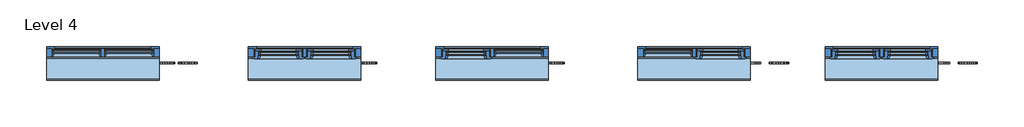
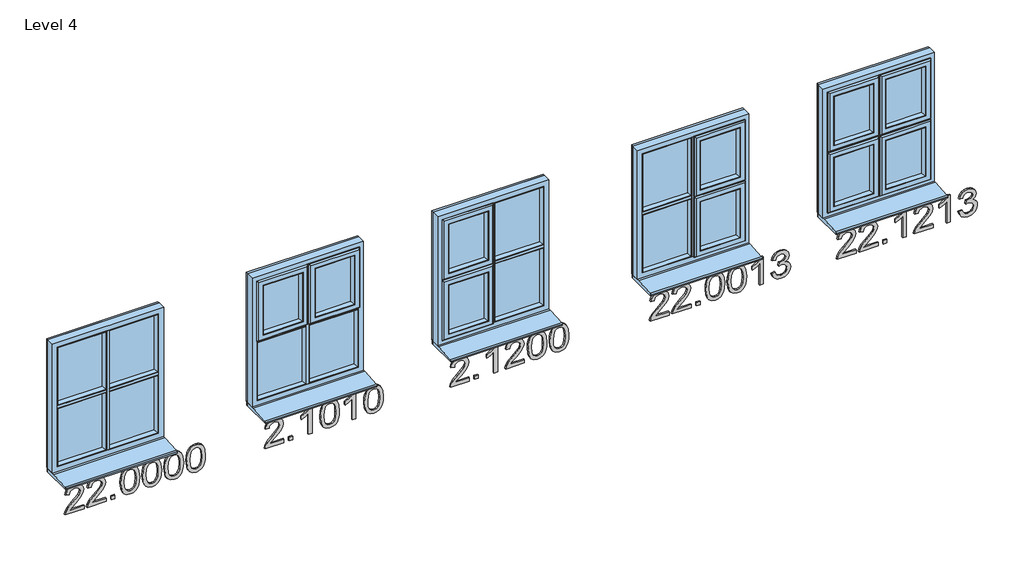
# One storey: 5 proxies, 5 windows.
"""IFC4 building model written with IfcOpenShell, lengths in millimetres."""

from ifc_helpers import new_model, si_unit, frame, origin, place, context, project, spatial, polyline, outline, extrude, transform, mapped, element, save
from components import standard_3f2e796d, standard_b7164f84, standard_6e114708, standard_c9fbf214, standard_c503fd03

model = new_model("IFC4")

# Units and contexts
model_context = context("Model", 3, world=origin())
ifc_project = project(units=[si_unit("LENGTHUNIT", "METRE", prefix="MILLI")], contexts=[model_context])

# Site, building, storey
site = spatial("IfcSite", under=ifc_project)
building = spatial("IfcBuilding", under=site)
storey = spatial("IfcBuildingStorey", under=building, Name="Level 4", Elevation=9000.0)

# Proxies
placement = place(None, origin())
element("IfcBuildingElementProxy", 1, Name="200mm Arial", ObjectType="200mm Arial", at=placement, inside=storey, context=model_context, shape_type="SweptSolid", body=[
    extrude(outline(polyline([(9359.434856, -163073.2452174), (9359.434856, -163171.8866431), (9372.212624, -163160.5558776), (9396.3702083, -163131.6648783), (9430.7794376, -163095.6860191), (9455.4030058, -163080.848112), (9479.2172337, -163076.3844771), (9501.1184751, -163080.5231496), (9519.1446929, -163092.9391669), (9531.2112223, -163112.4553067), (9535.2333988, -163137.8943467), (9531.6158925, -163163.1494457), (9520.7633736, -163182.7023737), (9503.0191987, -163195.8664178), (9478.7267243, -163201.9548648), (9475.5874646, -163176.8407873), (9490.0207016, -163174.1245919), (9500.9467968, -163166.2703113), (9507.8261901, -163154.0995486), (9510.1193212, -163138.433907), (9507.7710078, -163123.5162921), (9500.7260676, -163111.7256741), (9490.2720876, -163104.0553345), (9477.6966547, -163101.4985546), (9463.668088, -163104.2086187), (9449.2471138, -163112.3388108), (9407.4066682, -163155.6998353), (9378.2949396, -163187.1414831), (9351.6357577, -163202.3963232), (9334.3207785, -163205.0941245), (9334.3207785, -163073.2452174), (9359.434856, -163073.2452174)])), frame((0.0, 24202.6264647, 0.0), z_axis=(0.0, 1.0, 0.0), x_axis=(0.0, 0.0, 1.0)), (0.0, 0.0, 1.0), 10.0),
    extrude(outline(polyline([(9359.434856, -162919.4214925), (9359.434856, -163018.0629181), (9372.212624, -163006.7321527), (9396.3702083, -162977.8411533), (9430.7794376, -162941.8622942), (9455.4030058, -162927.0243871), (9479.2172337, -162922.5607522), (9501.1184751, -162926.6994246), (9519.1446929, -162939.115442), (9531.2112223, -162958.6315818), (9535.2333988, -162984.0706218), (9531.6158925, -163009.3257208), (9520.7633736, -163028.8786488), (9503.0191987, -163042.0426929), (9478.7267243, -163048.1311399), (9475.5874646, -163023.0170623), (9490.0207016, -163020.3008669), (9500.9467968, -163012.4465863), (9507.8261901, -163000.2758237), (9510.1193212, -162984.610182), (9507.7710078, -162969.6925671), (9500.7260676, -162957.9019492), (9490.2720876, -162950.2316096), (9477.6966547, -162947.6748297), (9463.668088, -162950.3848938), (9449.2471138, -162958.5150859), (9407.4066682, -163001.8761104), (9378.2949396, -163033.3177582), (9351.6357577, -163048.5725983), (9334.3207785, -163051.2703996), (9334.3207785, -162919.4214925), (9359.434856, -162919.4214925)])), frame((0.0, 24202.6264647, 0.0), z_axis=(0.0, 1.0, 0.0), x_axis=(0.0, 0.0, 1.0)), (0.0, 0.0, 1.0), 10.0),
    extrude(outline(polyline([(-162856.6362987, 24202.6264647), (-162881.7503762, 24202.6264647), (-162881.7503762, 24212.6264647), (-162856.6362987, 24212.6264647), (-162856.6362987, 24202.6264647)])), frame((0.0, 0.0, 9334.3207785), z_axis=(0.0, 0.0, 1.0), x_axis=(1.0, 0.0, 0.0)), (0.0, 0.0, 1.0), 25.1140775),
    extrude(outline(polyline([(9433.1584079, -162815.8259227), (9384.2914162, -162810.8227275), (9365.4405296, -162804.5687336), (9350.3113825, -162795.8131421), (9335.9639847, -162775.9965653), (9331.1815188, -162749.9014691), (9333.9345024, -162729.6005144), (9342.1934532, -162713.1377951), (9356.0503417, -162700.4029467), (9375.5971383, -162691.2856046), (9401.1833311, -162685.8041628), (9433.1584079, -162683.9770156), (9480.3699306, -162688.5387523), (9510.0947958, -162700.3109762), (9520.8553441, -162708.9807285), (9528.7586757, -162720.5690114), (9533.614718, -162734.4258999), (9535.2333988, -162749.9014691), (9532.4988093, -162770.0920593), (9524.2950408, -162786.5179904), (9510.4933346, -162799.2712329), (9490.964932, -162808.4437573), (9465.3174256, -162813.9803813), (9433.1584079, -162815.8259227)]), holes=[polyline([(9433.2074588, -162790.7118451), (9472.2029503, -162787.6706873), (9496.6793657, -162778.5472138), (9506.7593324, -162765.9165986), (9510.1193212, -162750.1957747), (9506.3056112, -162733.592034), (9494.8644812, -162720.4709095), (9471.8228055, -162711.9360472), (9433.2074588, -162709.0910931), (9393.7643775, -162712.0341491), (9370.8882488, -162720.863317), (9359.9437594, -162734.0089669), (9356.2955963, -162749.9014691), (9359.9314967, -162765.7939713), (9370.8391979, -162778.9396213), (9393.7030639, -162787.7687892), (9433.2074588, -162790.7118451)])]), frame((0.0, 24202.6264647, 0.0), z_axis=(0.0, 1.0, 0.0), x_axis=(0.0, 0.0, 1.0)), (0.0, 0.0, 1.0), 10.0),
    extrude(outline(polyline([(9433.1584079, -162662.0021977), (9384.2914162, -162656.9990026), (9365.4405296, -162650.7450087), (9350.3113825, -162641.9894172), (9335.9639847, -162622.1728404), (9331.1815188, -162596.0777442), (9333.9345024, -162575.7767894), (9342.1934532, -162559.3140702), (9356.0503417, -162546.5792218), (9375.5971383, -162537.4618796), (9401.1833311, -162531.9804379), (9433.1584079, -162530.1532907), (9480.3699306, -162534.7150274), (9510.0947958, -162546.4872513), (9520.8553441, -162555.1570036), (9528.7586757, -162566.7452865), (9533.614718, -162580.6021749), (9535.2333988, -162596.0777442), (9532.4988093, -162616.2683344), (9524.2950408, -162632.6942655), (9510.4933346, -162645.447508), (9490.964932, -162654.6200324), (9465.3174256, -162660.1566564), (9433.1584079, -162662.0021977)]), holes=[polyline([(9433.2074588, -162636.8881202), (9472.2029503, -162633.8469624), (9496.6793657, -162624.7234889), (9506.7593324, -162612.0928737), (9510.1193212, -162596.3720498), (9506.3056112, -162579.7683091), (9494.8644812, -162566.6471846), (9471.8228055, -162558.1123223), (9433.2074588, -162555.2673682), (9393.7643775, -162558.2104242), (9370.8882488, -162567.0395921), (9359.9437594, -162580.185242), (9356.2955963, -162596.0777442), (9359.9314967, -162611.9702464), (9370.8391979, -162625.1158964), (9393.7030639, -162633.9450642), (9433.2074588, -162636.8881202)])]), frame((0.0, 24202.6264647, 0.0), z_axis=(0.0, 1.0, 0.0), x_axis=(0.0, 0.0, 1.0)), (0.0, 0.0, 1.0), 10.0),
    extrude(outline(polyline([(9433.1584079, -162508.1784728), (9384.2914162, -162503.1752777), (9365.4405296, -162496.9212838), (9350.3113825, -162488.1656923), (9335.9639847, -162468.3491155), (9331.1815188, -162442.2540193), (9333.9345024, -162421.9530645), (9342.1934532, -162405.4903452), (9356.0503417, -162392.7554968), (9375.5971383, -162383.6381547), (9401.1833311, -162378.156713), (9433.1584079, -162376.3295658), (9480.3699306, -162380.8913025), (9510.0947958, -162392.6635263), (9520.8553441, -162401.3332787), (9528.7586757, -162412.9215615), (9533.614718, -162426.77845), (9535.2333988, -162442.2540193), (9532.4988093, -162462.4446095), (9524.2950408, -162478.8705405), (9510.4933346, -162491.623783), (9490.964932, -162500.7963075), (9465.3174256, -162506.3329315), (9433.1584079, -162508.1784728)]), holes=[polyline([(9433.2074588, -162483.0643953), (9472.2029503, -162480.0232375), (9496.6793657, -162470.899764), (9506.7593324, -162458.2691488), (9510.1193212, -162442.5483249), (9506.3056112, -162425.9445842), (9494.8644812, -162412.8234597), (9471.8228055, -162404.2885974), (9433.2074588, -162401.4436433), (9393.7643775, -162404.3866993), (9370.8882488, -162413.2158671), (9359.9437594, -162426.3615171), (9356.2955963, -162442.2540193), (9359.9314967, -162458.1465215), (9370.8391979, -162471.2921714), (9393.7030639, -162480.1213393), (9433.2074588, -162483.0643953)])]), frame((0.0, 24202.6264647, 0.0), z_axis=(0.0, 1.0, 0.0), x_axis=(0.0, 0.0, 1.0)), (0.0, 0.0, 1.0), 10.0),
    extrude(outline(polyline([(9433.1584079, -162354.3547479), (9384.2914162, -162349.3515528), (9365.4405296, -162343.0975589), (9350.3113825, -162334.3419674), (9335.9639847, -162314.5253906), (9331.1815188, -162288.4302944), (9333.9345024, -162268.1293396), (9342.1934532, -162251.6666203), (9356.0503417, -162238.9317719), (9375.5971383, -162229.8144298), (9401.1833311, -162224.3329881), (9433.1584079, -162222.5058408), (9480.3699306, -162227.0675776), (9510.0947958, -162238.8398014), (9520.8553441, -162247.5095538), (9528.7586757, -162259.0978366), (9533.614718, -162272.9547251), (9535.2333988, -162288.4302944), (9532.4988093, -162308.6208845), (9524.2950408, -162325.0468156), (9510.4933346, -162337.8000581), (9490.964932, -162346.9725825), (9465.3174256, -162352.5092066), (9433.1584079, -162354.3547479)]), holes=[polyline([(9433.2074588, -162329.2406704), (9472.2029503, -162326.1995125), (9496.6793657, -162317.0760391), (9506.7593324, -162304.4454239), (9510.1193212, -162288.7246), (9506.3056112, -162272.1208593), (9494.8644812, -162258.9997348), (9471.8228055, -162250.4648725), (9433.2074588, -162247.6199184), (9393.7643775, -162250.5629743), (9370.8882488, -162259.3921422), (9359.9437594, -162272.5377922), (9356.2955963, -162288.4302944), (9359.9314967, -162304.3227966), (9370.8391979, -162317.4684465), (9393.7030639, -162326.2976144), (9433.2074588, -162329.2406704)])]), frame((0.0, 24202.6264647, 0.0), z_axis=(0.0, 1.0, 0.0), x_axis=(0.0, 0.0, 1.0)), (0.0, 0.0, 1.0), 10.0),
])
element("IfcBuildingElementProxy", 2, Name="200mm Arial", ObjectType="200mm Arial", at=placement, inside=storey, context=model_context, shape_type="SweptSolid", body=[
    extrude(outline(polyline([(9359.434856, -161673.2452174), (9359.434856, -161771.8866431), (9372.212624, -161760.5558776), (9396.3702083, -161731.6648783), (9430.7794376, -161695.6860191), (9455.4030058, -161680.848112), (9479.2172337, -161676.3844771), (9501.1184751, -161680.5231496), (9519.1446929, -161692.9391669), (9531.2112223, -161712.4553067), (9535.2333988, -161737.8943467), (9531.6158925, -161763.1494457), (9520.7633736, -161782.7023737), (9503.0191987, -161795.8664178), (9478.7267243, -161801.9548648), (9475.5874646, -161776.8407873), (9490.0207016, -161774.1245919), (9500.9467968, -161766.2703113), (9507.8261901, -161754.0995486), (9510.1193212, -161738.433907), (9507.7710078, -161723.5162921), (9500.7260676, -161711.7256741), (9490.2720876, -161704.0553345), (9477.6966547, -161701.4985546), (9463.668088, -161704.2086187), (9449.2471138, -161712.3388108), (9407.4066682, -161755.6998353), (9378.2949396, -161787.1414831), (9351.6357577, -161802.3963232), (9334.3207785, -161805.0941245), (9334.3207785, -161673.2452174), (9359.434856, -161673.2452174)])), frame((0.0, 24202.6264647, 0.0), z_axis=(0.0, 1.0, 0.0), x_axis=(0.0, 0.0, 1.0)), (0.0, 0.0, 1.0), 10.0),
    extrude(outline(polyline([(-161610.4600236, 24202.6264647), (-161635.5741011, 24202.6264647), (-161635.5741011, 24212.6264647), (-161610.4600236, 24212.6264647), (-161610.4600236, 24202.6264647)])), frame((0.0, 0.0, 9334.3207785), z_axis=(0.0, 0.0, 1.0), x_axis=(1.0, 0.0, 0.0)), (0.0, 0.0, 1.0), 25.1140775),
    extrude(outline(polyline([(9334.3207785, -161475.4718568), (9535.2333988, -161475.4718568), (9535.2333988, -161491.6586646), (9522.0754861, -161500.530752), (9508.5006405, -161514.0013644), (9485.0052437, -161550.8140894), (9461.2645923, -161550.8140894), (9473.9442584, -161524.3756367), (9490.8913556, -161500.5859343), (9334.3207785, -161500.5859343), (9334.3207785, -161475.4718568)])), frame((0.0, 24202.6264647, 0.0), z_axis=(0.0, 1.0, 0.0), x_axis=(0.0, 0.0, 1.0)), (0.0, 0.0, 1.0), 10.0),
    extrude(outline(polyline([(9433.1584079, -161415.8259227), (9384.2914162, -161410.8227275), (9365.4405296, -161404.5687336), (9350.3113825, -161395.8131421), (9335.9639847, -161375.9965653), (9331.1815188, -161349.9014691), (9333.9345024, -161329.6005144), (9342.1934532, -161313.1377951), (9356.0503417, -161300.4029467), (9375.5971383, -161291.2856046), (9401.1833311, -161285.8041628), (9433.1584079, -161283.9770156), (9480.3699306, -161288.5387523), (9510.0947958, -161300.3109762), (9520.8553441, -161308.9807285), (9528.7586757, -161320.5690114), (9533.614718, -161334.4258999), (9535.2333988, -161349.9014691), (9532.4988093, -161370.0920593), (9524.2950408, -161386.5179904), (9510.4933346, -161399.2712329), (9490.964932, -161408.4437573), (9465.3174256, -161413.9803813), (9433.1584079, -161415.8259227)]), holes=[polyline([(9433.2074588, -161390.7118451), (9472.2029503, -161387.6706873), (9496.6793657, -161378.5472138), (9506.7593324, -161365.9165986), (9510.1193212, -161350.1957747), (9506.3056112, -161333.592034), (9494.8644812, -161320.4709095), (9471.8228055, -161311.9360472), (9433.2074588, -161309.0910931), (9393.7643775, -161312.0341491), (9370.8882488, -161320.863317), (9359.9437594, -161334.0089669), (9356.2955963, -161349.9014691), (9359.9314967, -161365.7939713), (9370.8391979, -161378.9396213), (9393.7030639, -161387.7687892), (9433.2074588, -161390.7118451)])]), frame((0.0, 24202.6264647, 0.0), z_axis=(0.0, 1.0, 0.0), x_axis=(0.0, 0.0, 1.0)), (0.0, 0.0, 1.0), 10.0),
    extrude(outline(polyline([(9334.3207785, -161167.824407), (9535.2333988, -161167.824407), (9535.2333988, -161184.0112148), (9522.0754861, -161192.8833022), (9508.5006405, -161206.3539146), (9485.0052437, -161243.1666396), (9461.2645923, -161243.1666396), (9473.9442584, -161216.7281869), (9490.8913556, -161192.9384845), (9334.3207785, -161192.9384845), (9334.3207785, -161167.824407)])), frame((0.0, 24202.6264647, 0.0), z_axis=(0.0, 1.0, 0.0), x_axis=(0.0, 0.0, 1.0)), (0.0, 0.0, 1.0), 10.0),
    extrude(outline(polyline([(9433.1584079, -161108.1784728), (9384.2914162, -161103.1752777), (9365.4405296, -161096.9212838), (9350.3113825, -161088.1656923), (9335.9639847, -161068.3491155), (9331.1815188, -161042.2540193), (9333.9345024, -161021.9530645), (9342.1934532, -161005.4903452), (9356.0503417, -160992.7554968), (9375.5971383, -160983.6381547), (9401.1833311, -160978.156713), (9433.1584079, -160976.3295658), (9480.3699306, -160980.8913025), (9510.0947958, -160992.6635263), (9520.8553441, -161001.3332787), (9528.7586757, -161012.9215615), (9533.614718, -161026.77845), (9535.2333988, -161042.2540193), (9532.4988093, -161062.4446095), (9524.2950408, -161078.8705405), (9510.4933346, -161091.623783), (9490.964932, -161100.7963075), (9465.3174256, -161106.3329315), (9433.1584079, -161108.1784728)]), holes=[polyline([(9433.2074588, -161083.0643953), (9472.2029503, -161080.0232375), (9496.6793657, -161070.899764), (9506.7593324, -161058.2691488), (9510.1193212, -161042.5483249), (9506.3056112, -161025.9445842), (9494.8644812, -161012.8234597), (9471.8228055, -161004.2885974), (9433.2074588, -161001.4436433), (9393.7643775, -161004.3866993), (9370.8882488, -161013.2158671), (9359.9437594, -161026.3615171), (9356.2955963, -161042.2540193), (9359.9314967, -161058.1465215), (9370.8391979, -161071.2921714), (9393.7030639, -161080.1213393), (9433.2074588, -161083.0643953)])]), frame((0.0, 24202.6264647, 0.0), z_axis=(0.0, 1.0, 0.0), x_axis=(0.0, 0.0, 1.0)), (0.0, 0.0, 1.0), 10.0),
])
element("IfcBuildingElementProxy", 3, Name="200mm Arial", ObjectType="200mm Arial", at=placement, inside=storey, context=model_context, shape_type="SweptSolid", body=[
    extrude(outline(polyline([(9359.434856, -160373.2452174), (9359.434856, -160471.8866431), (9372.212624, -160460.5558776), (9396.3702083, -160431.6648783), (9430.7794376, -160395.6860191), (9455.4030058, -160380.848112), (9479.2172337, -160376.3844771), (9501.1184751, -160380.5231496), (9519.1446929, -160392.9391669), (9531.2112223, -160412.4553067), (9535.2333988, -160437.8943467), (9531.6158925, -160463.1494457), (9520.7633736, -160482.7023737), (9503.0191987, -160495.8664178), (9478.7267243, -160501.9548648), (9475.5874646, -160476.8407873), (9490.0207016, -160474.1245919), (9500.9467968, -160466.2703113), (9507.8261901, -160454.0995486), (9510.1193212, -160438.433907), (9507.7710078, -160423.5162921), (9500.7260676, -160411.7256741), (9490.2720876, -160404.0553345), (9477.6966547, -160401.4985546), (9463.668088, -160404.2086187), (9449.2471138, -160412.3388108), (9407.4066682, -160455.6998353), (9378.2949396, -160487.1414831), (9351.6357577, -160502.3963232), (9334.3207785, -160505.0941245), (9334.3207785, -160373.2452174), (9359.434856, -160373.2452174)])), frame((0.0, 24202.6264647, 0.0), z_axis=(0.0, 1.0, 0.0), x_axis=(0.0, 0.0, 1.0)), (0.0, 0.0, 1.0), 10.0),
    extrude(outline(polyline([(-160310.4600236, 24202.6264647), (-160335.5741011, 24202.6264647), (-160335.5741011, 24212.6264647), (-160310.4600236, 24212.6264647), (-160310.4600236, 24202.6264647)])), frame((0.0, 0.0, 9334.3207785), z_axis=(0.0, 0.0, 1.0), x_axis=(1.0, 0.0, 0.0)), (0.0, 0.0, 1.0), 25.1140775),
    extrude(outline(polyline([(9334.3207785, -160175.4718568), (9535.2333988, -160175.4718568), (9535.2333988, -160191.6586646), (9522.0754861, -160200.530752), (9508.5006405, -160214.0013644), (9485.0052437, -160250.8140894), (9461.2645923, -160250.8140894), (9473.9442584, -160224.3756367), (9490.8913556, -160200.5859343), (9334.3207785, -160200.5859343), (9334.3207785, -160175.4718568)])), frame((0.0, 24202.6264647, 0.0), z_axis=(0.0, 1.0, 0.0), x_axis=(0.0, 0.0, 1.0)), (0.0, 0.0, 1.0), 10.0),
    extrude(outline(polyline([(9359.434856, -159987.1162753), (9359.434856, -160085.7577009), (9372.212624, -160074.4269355), (9396.3702083, -160045.5359361), (9430.7794376, -160009.557077), (9455.4030058, -159994.7191698), (9479.2172337, -159990.255535), (9501.1184751, -159994.3942074), (9519.1446929, -160006.8102248), (9531.2112223, -160026.3263646), (9535.2333988, -160051.7654046), (9531.6158925, -160077.0205035), (9520.7633736, -160096.5734316), (9503.0191987, -160109.7374756), (9478.7267243, -160115.8259227), (9475.5874646, -160090.7118451), (9490.0207016, -160087.9956497), (9500.9467968, -160080.1413691), (9507.8261901, -160067.9706065), (9510.1193212, -160052.3049648), (9507.7710078, -160037.3873499), (9500.7260676, -160025.596732), (9490.2720876, -160017.9263924), (9477.6966547, -160015.3696125), (9463.668088, -160018.0796765), (9449.2471138, -160026.2098686), (9407.4066682, -160069.5708931), (9378.2949396, -160101.012541), (9351.6357577, -160116.2673811), (9334.3207785, -160118.9651824), (9334.3207785, -159987.1162753), (9359.434856, -159987.1162753)])), frame((0.0, 24202.6264647, 0.0), z_axis=(0.0, 1.0, 0.0), x_axis=(0.0, 0.0, 1.0)), (0.0, 0.0, 1.0), 10.0),
    extrude(outline(polyline([(9433.1584079, -159962.0021977), (9384.2914162, -159956.9990026), (9365.4405296, -159950.7450087), (9350.3113825, -159941.9894172), (9335.9639847, -159922.1728404), (9331.1815188, -159896.0777442), (9333.9345024, -159875.7767894), (9342.1934532, -159859.3140702), (9356.0503417, -159846.5792218), (9375.5971383, -159837.4618796), (9401.1833311, -159831.9804379), (9433.1584079, -159830.1532907), (9480.3699306, -159834.7150274), (9510.0947958, -159846.4872513), (9520.8553441, -159855.1570036), (9528.7586757, -159866.7452865), (9533.614718, -159880.6021749), (9535.2333988, -159896.0777442), (9532.4988093, -159916.2683344), (9524.2950408, -159932.6942655), (9510.4933346, -159945.447508), (9490.964932, -159954.6200324), (9465.3174256, -159960.1566564), (9433.1584079, -159962.0021977)]), holes=[polyline([(9433.2074588, -159936.8881202), (9472.2029503, -159933.8469624), (9496.6793657, -159924.7234889), (9506.7593324, -159912.0928737), (9510.1193212, -159896.3720498), (9506.3056112, -159879.7683091), (9494.8644812, -159866.6471846), (9471.8228055, -159858.1123223), (9433.2074588, -159855.2673682), (9393.7643775, -159858.2104242), (9370.8882488, -159867.0395921), (9359.9437594, -159880.185242), (9356.2955963, -159896.0777442), (9359.9314967, -159911.9702464), (9370.8391979, -159925.1158964), (9393.7030639, -159933.9450642), (9433.2074588, -159936.8881202)])]), frame((0.0, 24202.6264647, 0.0), z_axis=(0.0, 1.0, 0.0), x_axis=(0.0, 0.0, 1.0)), (0.0, 0.0, 1.0), 10.0),
    extrude(outline(polyline([(9433.1584079, -159808.1784728), (9384.2914162, -159803.1752777), (9365.4405296, -159796.9212838), (9350.3113825, -159788.1656923), (9335.9639847, -159768.3491155), (9331.1815188, -159742.2540193), (9333.9345024, -159721.9530645), (9342.1934532, -159705.4903452), (9356.0503417, -159692.7554968), (9375.5971383, -159683.6381547), (9401.1833311, -159678.156713), (9433.1584079, -159676.3295658), (9480.3699306, -159680.8913025), (9510.0947958, -159692.6635263), (9520.8553441, -159701.3332787), (9528.7586757, -159712.9215615), (9533.614718, -159726.77845), (9535.2333988, -159742.2540193), (9532.4988093, -159762.4446095), (9524.2950408, -159778.8705405), (9510.4933346, -159791.623783), (9490.964932, -159800.7963075), (9465.3174256, -159806.3329315), (9433.1584079, -159808.1784728)]), holes=[polyline([(9433.2074588, -159783.0643953), (9472.2029503, -159780.0232375), (9496.6793657, -159770.899764), (9506.7593324, -159758.2691488), (9510.1193212, -159742.5483249), (9506.3056112, -159725.9445842), (9494.8644812, -159712.8234597), (9471.8228055, -159704.2885974), (9433.2074588, -159701.4436433), (9393.7643775, -159704.3866993), (9370.8882488, -159713.2158671), (9359.9437594, -159726.3615171), (9356.2955963, -159742.2540193), (9359.9314967, -159758.1465215), (9370.8391979, -159771.2921714), (9393.7030639, -159780.1213393), (9433.2074588, -159783.0643953)])]), frame((0.0, 24202.6264647, 0.0), z_axis=(0.0, 1.0, 0.0), x_axis=(0.0, 0.0, 1.0)), (0.0, 0.0, 1.0), 10.0),
])
element("IfcBuildingElementProxy", 4, Name="200mm Arial", ObjectType="200mm Arial", at=placement, inside=storey, context=model_context, shape_type="SweptSolid", body=[
    extrude(outline(polyline([(9359.434856, -158973.2452174), (9359.434856, -159071.8866431), (9372.212624, -159060.5558776), (9396.3702083, -159031.6648783), (9430.7794376, -158995.6860191), (9455.4030058, -158980.848112), (9479.2172337, -158976.3844771), (9501.1184751, -158980.5231496), (9519.1446929, -158992.9391669), (9531.2112223, -159012.4553067), (9535.2333988, -159037.8943467), (9531.6158925, -159063.1494457), (9520.7633736, -159082.7023737), (9503.0191987, -159095.8664178), (9478.7267243, -159101.9548648), (9475.5874646, -159076.8407873), (9490.0207016, -159074.1245919), (9500.9467968, -159066.2703113), (9507.8261901, -159054.0995486), (9510.1193212, -159038.433907), (9507.7710078, -159023.5162921), (9500.7260676, -159011.7256741), (9490.2720876, -159004.0553345), (9477.6966547, -159001.4985546), (9463.668088, -159004.2086187), (9449.2471138, -159012.3388108), (9407.4066682, -159055.6998353), (9378.2949396, -159087.1414831), (9351.6357577, -159102.3963232), (9334.3207785, -159105.0941245), (9334.3207785, -158973.2452174), (9359.434856, -158973.2452174)])), frame((0.0, 24202.6264647, 0.0), z_axis=(0.0, 1.0, 0.0), x_axis=(0.0, 0.0, 1.0)), (0.0, 0.0, 1.0), 10.0),
    extrude(outline(polyline([(9359.434856, -158819.4214925), (9359.434856, -158918.0629181), (9372.212624, -158906.7321527), (9396.3702083, -158877.8411533), (9430.7794376, -158841.8622942), (9455.4030058, -158827.0243871), (9479.2172337, -158822.5607522), (9501.1184751, -158826.6994246), (9519.1446929, -158839.115442), (9531.2112223, -158858.6315818), (9535.2333988, -158884.0706218), (9531.6158925, -158909.3257208), (9520.7633736, -158928.8786488), (9503.0191987, -158942.0426929), (9478.7267243, -158948.1311399), (9475.5874646, -158923.0170623), (9490.0207016, -158920.3008669), (9500.9467968, -158912.4465863), (9507.8261901, -158900.2758237), (9510.1193212, -158884.610182), (9507.7710078, -158869.6925671), (9500.7260676, -158857.9019492), (9490.2720876, -158850.2316096), (9477.6966547, -158847.6748297), (9463.668088, -158850.3848938), (9449.2471138, -158858.5150859), (9407.4066682, -158901.8761104), (9378.2949396, -158933.3177582), (9351.6357577, -158948.5725983), (9334.3207785, -158951.2703996), (9334.3207785, -158819.4214925), (9359.434856, -158819.4214925)])), frame((0.0, 24202.6264647, 0.0), z_axis=(0.0, 1.0, 0.0), x_axis=(0.0, 0.0, 1.0)), (0.0, 0.0, 1.0), 10.0),
    extrude(outline(polyline([(-158756.6362987, 24202.6264647), (-158781.7503762, 24202.6264647), (-158781.7503762, 24212.6264647), (-158756.6362987, 24212.6264647), (-158756.6362987, 24202.6264647)])), frame((0.0, 0.0, 9334.3207785), z_axis=(0.0, 0.0, 1.0), x_axis=(1.0, 0.0, 0.0)), (0.0, 0.0, 1.0), 25.1140775),
    extrude(outline(polyline([(9433.1584079, -158715.8259227), (9384.2914162, -158710.8227275), (9365.4405296, -158704.5687336), (9350.3113825, -158695.8131421), (9335.9639847, -158675.9965653), (9331.1815188, -158649.9014691), (9333.9345024, -158629.6005144), (9342.1934532, -158613.1377951), (9356.0503417, -158600.4029467), (9375.5971383, -158591.2856046), (9401.1833311, -158585.8041628), (9433.1584079, -158583.9770156), (9480.3699306, -158588.5387523), (9510.0947958, -158600.3109762), (9520.8553441, -158608.9807285), (9528.7586757, -158620.5690114), (9533.614718, -158634.4258999), (9535.2333988, -158649.9014691), (9532.4988093, -158670.0920593), (9524.2950408, -158686.5179904), (9510.4933346, -158699.2712329), (9490.964932, -158708.4437573), (9465.3174256, -158713.9803813), (9433.1584079, -158715.8259227)]), holes=[polyline([(9433.2074588, -158690.7118451), (9472.2029503, -158687.6706873), (9496.6793657, -158678.5472138), (9506.7593324, -158665.9165986), (9510.1193212, -158650.1957747), (9506.3056112, -158633.592034), (9494.8644812, -158620.4709095), (9471.8228055, -158611.9360472), (9433.2074588, -158609.0910931), (9393.7643775, -158612.0341491), (9370.8882488, -158620.863317), (9359.9437594, -158634.0089669), (9356.2955963, -158649.9014691), (9359.9314967, -158665.7939713), (9370.8391979, -158678.9396213), (9393.7030639, -158687.7687892), (9433.2074588, -158690.7118451)])]), frame((0.0, 24202.6264647, 0.0), z_axis=(0.0, 1.0, 0.0), x_axis=(0.0, 0.0, 1.0)), (0.0, 0.0, 1.0), 10.0),
    extrude(outline(polyline([(9433.1584079, -158562.0021977), (9384.2914162, -158556.9990026), (9365.4405296, -158550.7450087), (9350.3113825, -158541.9894172), (9335.9639847, -158522.1728404), (9331.1815188, -158496.0777442), (9333.9345024, -158475.7767894), (9342.1934532, -158459.3140702), (9356.0503417, -158446.5792218), (9375.5971383, -158437.4618796), (9401.1833311, -158431.9804379), (9433.1584079, -158430.1532907), (9480.3699306, -158434.7150274), (9510.0947958, -158446.4872513), (9520.8553441, -158455.1570036), (9528.7586757, -158466.7452865), (9533.614718, -158480.6021749), (9535.2333988, -158496.0777442), (9532.4988093, -158516.2683344), (9524.2950408, -158532.6942655), (9510.4933346, -158545.447508), (9490.964932, -158554.6200324), (9465.3174256, -158560.1566564), (9433.1584079, -158562.0021977)]), holes=[polyline([(9433.2074588, -158536.8881202), (9472.2029503, -158533.8469624), (9496.6793657, -158524.7234889), (9506.7593324, -158512.0928737), (9510.1193212, -158496.3720498), (9506.3056112, -158479.7683091), (9494.8644812, -158466.6471846), (9471.8228055, -158458.1123223), (9433.2074588, -158455.2673682), (9393.7643775, -158458.2104242), (9370.8882488, -158467.0395921), (9359.9437594, -158480.185242), (9356.2955963, -158496.0777442), (9359.9314967, -158511.9702464), (9370.8391979, -158525.1158964), (9393.7030639, -158533.9450642), (9433.2074588, -158536.8881202)])]), frame((0.0, 24202.6264647, 0.0), z_axis=(0.0, 1.0, 0.0), x_axis=(0.0, 0.0, 1.0)), (0.0, 0.0, 1.0), 10.0),
    extrude(outline(polyline([(9334.3207785, -158314.0006821), (9535.2333988, -158314.0006821), (9535.2333988, -158330.1874898), (9522.0754861, -158339.0595773), (9508.5006405, -158352.5301897), (9485.0052437, -158389.3429147), (9461.2645923, -158389.3429147), (9473.9442584, -158362.904462), (9490.8913556, -158339.1147596), (9334.3207785, -158339.1147596), (9334.3207785, -158314.0006821)])), frame((0.0, 24202.6264647, 0.0), z_axis=(0.0, 1.0, 0.0), x_axis=(0.0, 0.0, 1.0)), (0.0, 0.0, 1.0), 10.0),
    extrude(outline(polyline([(9387.6881933, -158254.3547479), (9364.9898741, -158248.1375422), (9346.9268682, -158234.3910183), (9335.1178561, -158214.6234924), (9331.1815188, -158190.3432807), (9335.7923065, -158163.5001578), (9349.6246695, -158141.7338065), (9370.0789084, -158127.3128322), (9394.5553238, -158122.5058408), (9412.5324907, -158124.9093365), (9427.223245, -158132.1198236), (9438.0389757, -158143.7694202), (9444.3910714, -158159.4902441), (9451.6383467, -158147.5218165), (9461.0193376, -158138.8888524), (9472.031272, -158133.664928), (9484.1713779, -158131.9236199), (9497.2005318, -158133.7568985), (9509.5061846, -158139.2567344), (9520.1870252, -158148.2207923), (9528.3417427, -158160.4467373), (9533.5104848, -158174.9474193), (9535.2333988, -158190.7356882), (9531.7385198, -158212.6614551), (9521.253883, -158230.6631474), (9504.4171503, -158243.8210601), (9481.865984, -158251.2154882), (9478.7267243, -158226.1014107), (9492.4609855, -158221.6500385), (9502.271172, -158213.7896266), (9508.1572839, -158203.0229469), (9510.1193212, -158189.8527714), (9508.175678, -158176.7071215), (9502.3447484, -158166.2102219), (9493.5462374, -158159.3308286), (9482.6998499, -158157.0376975), (9469.6768272, -158160.2014826), (9460.5288283, -158169.6928381), (9455.120963, -158183.1450564), (9453.3183412, -158198.19143), (9453.6126468, -158202.2136065), (9428.4985693, -158205.0095096), (9431.2454215, -158187.4002248), (9428.6763789, -158171.6058245), (9420.9692511, -158158.852582), (9409.3380487, -158150.4280843), (9394.9967822, -158147.6199184), (9379.889095, -158150.4526097), (9367.4301581, -158158.9506838), (9359.0792368, -158172.2434866), (9356.2955963, -158189.460364), (9358.3189473, -158204.1327242), (9364.3890002, -158215.3837819), (9375.0453154, -158223.6182072), (9390.8274529, -158229.2406704), (9387.6881933, -158254.3547479)])), frame((0.0, 24202.6264647, 0.0), z_axis=(0.0, 1.0, 0.0), x_axis=(0.0, 0.0, 1.0)), (0.0, 0.0, 1.0), 10.0),
])
element("IfcBuildingElementProxy", 5, Name="200mm Arial", ObjectType="200mm Arial", at=placement, inside=storey, context=model_context, shape_type="SweptSolid", body=[
    extrude(outline(polyline([(9359.434856, -157663.2452174), (9359.434856, -157761.8866431), (9372.212624, -157750.5558776), (9396.3702083, -157721.6648783), (9430.7794376, -157685.6860191), (9455.4030058, -157670.848112), (9479.2172337, -157666.3844771), (9501.1184751, -157670.5231496), (9519.1446929, -157682.9391669), (9531.2112223, -157702.4553067), (9535.2333988, -157727.8943467), (9531.6158925, -157753.1494457), (9520.7633736, -157772.7023737), (9503.0191987, -157785.8664178), (9478.7267243, -157791.9548648), (9475.5874646, -157766.8407873), (9490.0207016, -157764.1245919), (9500.9467968, -157756.2703113), (9507.8261901, -157744.0995486), (9510.1193212, -157728.433907), (9507.7710078, -157713.5162921), (9500.7260676, -157701.7256741), (9490.2720876, -157694.0553345), (9477.6966547, -157691.4985546), (9463.668088, -157694.2086187), (9449.2471138, -157702.3388108), (9407.4066682, -157745.6998353), (9378.2949396, -157777.1414831), (9351.6357577, -157792.3963232), (9334.3207785, -157795.0941245), (9334.3207785, -157663.2452174), (9359.434856, -157663.2452174)])), frame((0.0, 24202.6264647, 0.0), z_axis=(0.0, 1.0, 0.0), x_axis=(0.0, 0.0, 1.0)), (0.0, 0.0, 1.0), 10.0),
    extrude(outline(polyline([(9359.434856, -157509.4214925), (9359.434856, -157608.0629181), (9372.212624, -157596.7321527), (9396.3702083, -157567.8411533), (9430.7794376, -157531.8622942), (9455.4030058, -157517.0243871), (9479.2172337, -157512.5607522), (9501.1184751, -157516.6994246), (9519.1446929, -157529.115442), (9531.2112223, -157548.6315818), (9535.2333988, -157574.0706218), (9531.6158925, -157599.3257208), (9520.7633736, -157618.8786488), (9503.0191987, -157632.0426929), (9478.7267243, -157638.1311399), (9475.5874646, -157613.0170623), (9490.0207016, -157610.3008669), (9500.9467968, -157602.4465863), (9507.8261901, -157590.2758237), (9510.1193212, -157574.610182), (9507.7710078, -157559.6925671), (9500.7260676, -157547.9019492), (9490.2720876, -157540.2316096), (9477.6966547, -157537.6748297), (9463.668088, -157540.3848938), (9449.2471138, -157548.5150859), (9407.4066682, -157591.8761104), (9378.2949396, -157623.3177582), (9351.6357577, -157638.5725983), (9334.3207785, -157641.2703996), (9334.3207785, -157509.4214925), (9359.434856, -157509.4214925)])), frame((0.0, 24202.6264647, 0.0), z_axis=(0.0, 1.0, 0.0), x_axis=(0.0, 0.0, 1.0)), (0.0, 0.0, 1.0), 10.0),
    extrude(outline(polyline([(-157446.6362987, 24202.6264647), (-157471.7503762, 24202.6264647), (-157471.7503762, 24212.6264647), (-157446.6362987, 24212.6264647), (-157446.6362987, 24202.6264647)])), frame((0.0, 0.0, 9334.3207785), z_axis=(0.0, 0.0, 1.0), x_axis=(1.0, 0.0, 0.0)), (0.0, 0.0, 1.0), 25.1140775),
    extrude(outline(polyline([(9334.3207785, -157311.6481319), (9535.2333988, -157311.6481319), (9535.2333988, -157327.8349397), (9522.0754861, -157336.7070271), (9508.5006405, -157350.1776395), (9485.0052437, -157386.9903645), (9461.2645923, -157386.9903645), (9473.9442584, -157360.5519118), (9490.8913556, -157336.7622094), (9334.3207785, -157336.7622094), (9334.3207785, -157311.6481319)])), frame((0.0, 24202.6264647, 0.0), z_axis=(0.0, 1.0, 0.0), x_axis=(0.0, 0.0, 1.0)), (0.0, 0.0, 1.0), 10.0),
    extrude(outline(polyline([(9359.434856, -157123.2925504), (9359.434856, -157221.933976), (9372.212624, -157210.6032106), (9396.3702083, -157181.7122112), (9430.7794376, -157145.7333521), (9455.4030058, -157130.8954449), (9479.2172337, -157126.4318101), (9501.1184751, -157130.5704825), (9519.1446929, -157142.9864998), (9531.2112223, -157162.5026397), (9535.2333988, -157187.9416797), (9531.6158925, -157213.1967786), (9520.7633736, -157232.7497067), (9503.0191987, -157245.9137507), (9478.7267243, -157252.0021977), (9475.5874646, -157226.8881202), (9490.0207016, -157224.1719248), (9500.9467968, -157216.3176442), (9507.8261901, -157204.1468815), (9510.1193212, -157188.4812399), (9507.7710078, -157173.563625), (9500.7260676, -157161.7730071), (9490.2720876, -157154.1026675), (9477.6966547, -157151.5458876), (9463.668088, -157154.2559516), (9449.2471138, -157162.3861437), (9407.4066682, -157205.7471682), (9378.2949396, -157237.1888161), (9351.6357577, -157252.4436561), (9334.3207785, -157255.1414574), (9334.3207785, -157123.2925504), (9359.434856, -157123.2925504)])), frame((0.0, 24202.6264647, 0.0), z_axis=(0.0, 1.0, 0.0), x_axis=(0.0, 0.0, 1.0)), (0.0, 0.0, 1.0), 10.0),
    extrude(outline(polyline([(9334.3207785, -157004.0006821), (9535.2333988, -157004.0006821), (9535.2333988, -157020.1874898), (9522.0754861, -157029.0595773), (9508.5006405, -157042.5301897), (9485.0052437, -157079.3429147), (9461.2645923, -157079.3429147), (9473.9442584, -157052.904462), (9490.8913556, -157029.1147596), (9334.3207785, -157029.1147596), (9334.3207785, -157004.0006821)])), frame((0.0, 24202.6264647, 0.0), z_axis=(0.0, 1.0, 0.0), x_axis=(0.0, 0.0, 1.0)), (0.0, 0.0, 1.0), 10.0),
    extrude(outline(polyline([(9387.6881933, -156944.3547479), (9364.9898741, -156938.1375422), (9346.9268682, -156924.3910183), (9335.1178561, -156904.6234924), (9331.1815188, -156880.3432807), (9335.7923065, -156853.5001578), (9349.6246695, -156831.7338065), (9370.0789084, -156817.3128322), (9394.5553238, -156812.5058408), (9412.5324907, -156814.9093365), (9427.223245, -156822.1198236), (9438.0389757, -156833.7694202), (9444.3910714, -156849.4902441), (9451.6383467, -156837.5218165), (9461.0193376, -156828.8888524), (9472.031272, -156823.664928), (9484.1713779, -156821.9236199), (9497.2005318, -156823.7568985), (9509.5061846, -156829.2567344), (9520.1870252, -156838.2207923), (9528.3417427, -156850.4467373), (9533.5104848, -156864.9474193), (9535.2333988, -156880.7356882), (9531.7385198, -156902.6614551), (9521.253883, -156920.6631474), (9504.4171503, -156933.8210601), (9481.865984, -156941.2154882), (9478.7267243, -156916.1014107), (9492.4609855, -156911.6500385), (9502.271172, -156903.7896266), (9508.1572839, -156893.0229469), (9510.1193212, -156879.8527714), (9508.175678, -156866.7071215), (9502.3447484, -156856.2102219), (9493.5462374, -156849.3308286), (9482.6998499, -156847.0376975), (9469.6768272, -156850.2014826), (9460.5288283, -156859.6928381), (9455.120963, -156873.1450564), (9453.3183412, -156888.19143), (9453.6126468, -156892.2136065), (9428.4985693, -156895.0095096), (9431.2454215, -156877.4002248), (9428.6763789, -156861.6058245), (9420.9692511, -156848.852582), (9409.3380487, -156840.4280843), (9394.9967822, -156837.6199184), (9379.889095, -156840.4526097), (9367.4301581, -156848.9506838), (9359.0792368, -156862.2434866), (9356.2955963, -156879.460364), (9358.3189473, -156894.1327242), (9364.3890002, -156905.3837819), (9375.0453154, -156913.6182072), (9390.8274529, -156919.2406704), (9387.6881933, -156944.3547479)])), frame((0.0, 24202.6264647, 0.0), z_axis=(0.0, 1.0, 0.0), x_axis=(0.0, 0.0, 1.0)), (0.0, 0.0, 1.0), 10.0),
])

# Windows
standard_shape = standard_3f2e796d(model_context)
element("IfcWindow", 6, ObjectType="SMARTS_Alitherm600 : Standard", at=placement, inside=storey, context=model_context, shape_type="MappedRepresentation", body=[
    mapped(standard_shape, transform((-157476.7668676, 24355.9063079, 9000.0), x_axis=(-1.0, 0.0, 0.0), y_axis=(0.0, -1.0, 0.0), z_axis=(0.0, 0.0, 1.0))),
])
standard_2_shape = standard_b7164f84(model_context)
element("IfcWindow", 7, ObjectType="SMARTS_Alitherm600 : Standard", at=placement, inside=storey, context=model_context, shape_type="MappedRepresentation", body=[
    mapped(standard_2_shape, transform((-162876.7668676, 24355.9063079, 9000.0), x_axis=(-1.0, 0.0, 0.0), y_axis=(0.0, -1.0, 0.0), z_axis=(0.0, 0.0, 1.0))),
])
standard_3_shape = standard_6e114708(model_context)
element("IfcWindow", 8, ObjectType="SMARTS_Alitherm600 : Standard", at=placement, inside=storey, context=model_context, shape_type="MappedRepresentation", body=[
    mapped(standard_3_shape, transform((-161476.7668676, 24355.9063079, 9000.0), x_axis=(-1.0, 0.0, 0.0), y_axis=(0.0, -1.0, 0.0), z_axis=(0.0, 0.0, 1.0))),
])
standard_4_shape = standard_c9fbf214(model_context)
element("IfcWindow", 9, ObjectType="SMARTS_Alitherm600 : Standard", at=placement, inside=storey, context=model_context, shape_type="MappedRepresentation", body=[
    mapped(standard_4_shape, transform((-160176.7668676, 24355.9063079, 9000.0), x_axis=(-1.0, 0.0, 0.0), y_axis=(0.0, -1.0, 0.0), z_axis=(0.0, 0.0, 1.0))),
])
standard_5_shape = standard_c503fd03(model_context)
element("IfcWindow", 10, ObjectType="SMARTS_Alitherm600 : Standard", at=placement, inside=storey, context=model_context, shape_type="MappedRepresentation", body=[
    mapped(standard_5_shape, transform((-158776.7668676, 24355.9063079, 9000.0), x_axis=(-1.0, 0.0, 0.0), y_axis=(0.0, -1.0, 0.0), z_axis=(0.0, 0.0, 1.0))),
])

save(model, "model.ifc")
